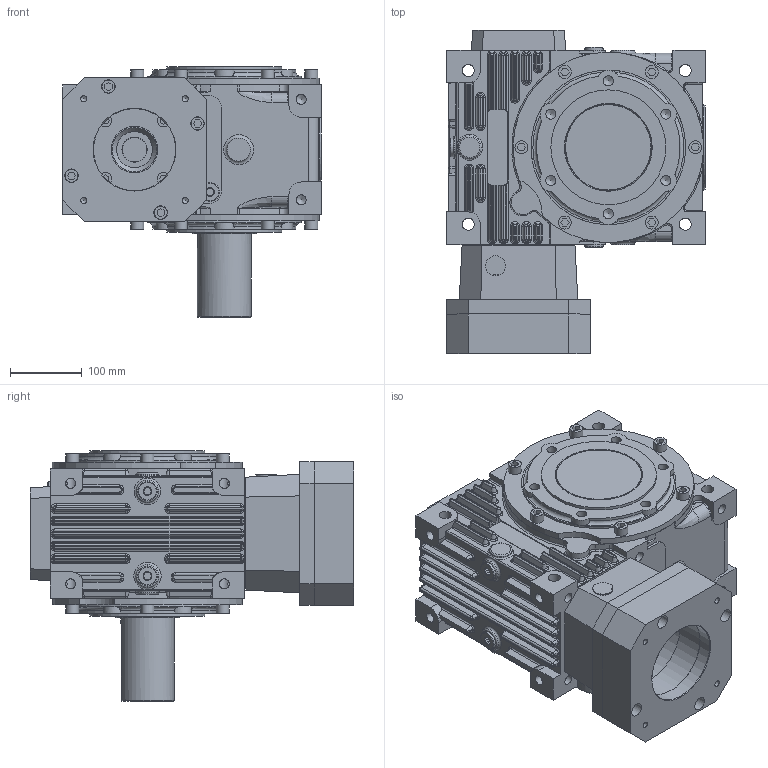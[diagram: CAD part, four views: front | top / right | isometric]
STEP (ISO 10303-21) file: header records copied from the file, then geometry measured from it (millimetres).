
FILE_DESCRIPTION( ( 'STEP AP203' ), '1' );
FILE_NAME( ' ', ' ', ( ' ' ), ( ' ' ), 'XStep 1.0', ' ', ' ' );
FILE_SCHEMA( ( 'CONFIG_CONTROL_DESIGN' ) );
Length unit declared in the file: millimetre
Products named in the file (42): 1; 2; 3; 4; 5; 6; 7; 8; 9; 10; 11; 12; 13; 14; 15; 16; 17; 18; 19; 20; 21; 22; 23; 24; 25; 26; 27; 28; 29; 30; 31; 32; 33; 34; 35; 36; 37; 38; 39; 40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
Bounding box: 360 x 450 x 348 mm (x, y, z)
Volume: 12722198.6 mm3; surface area: 1777363.3 mm2
Topology: 42 solids, 42 shells, 1880 faces, 4507 edges, 2833 vertices
Faces by surface type: plane 718, cylinder 651, cone 226, torus 183, bspline 82, sphere 20
Full cylindrical faces by diameter (mm): 8.5 x18, 10.25 x44, 12 x48, 13 x24, 14 x52, 17 x4, 17.5 x7, 18 x24, 19 x8, 20.96 x5, 22 x1, 25 x1, 25.5 x1, 26 x5, 28 x1, 30.5 x2, 32 x2, 35 x2, 44 x1, 47 x1, 50 x2, 53 x1, 56.5 x1, 65 x1, 70 x2, 75 x1, 80 x2, 81 x1, 82 x2, 85 x2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
Entity records: 61720 total; most frequent: CARTESIAN_POINT 18596, DIRECTION 8960, ORIENTED_EDGE 7652, EDGE_CURVE 3826, AXIS2_PLACEMENT_3D 3629, VERTEX_POINT 2665, EDGE_LOOP 2625, FACE_OUTER_BOUND 2212
